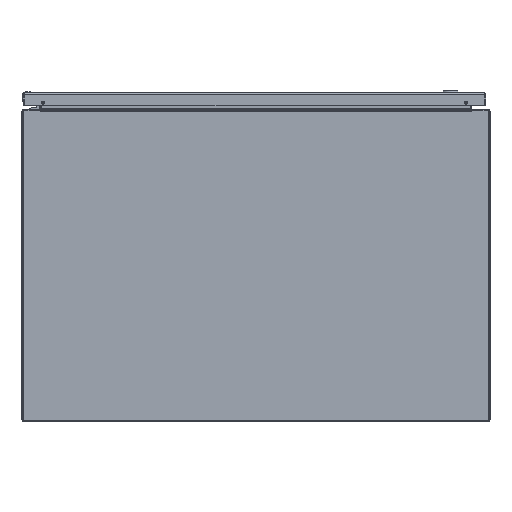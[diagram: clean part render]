
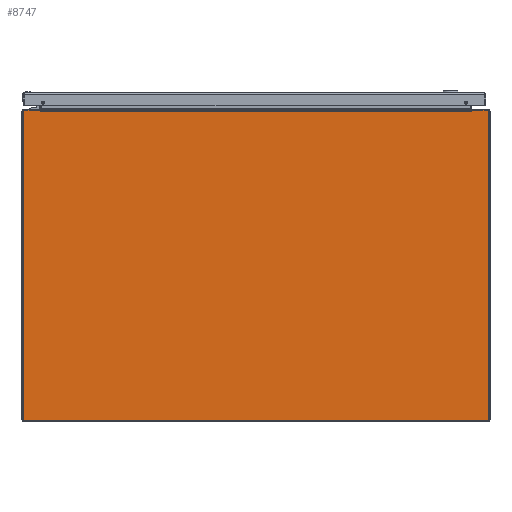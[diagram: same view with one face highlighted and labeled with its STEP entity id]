
A CAD part, front view. The second image highlights one B-rep face of the part: STEP entity #8747.
In plain terms, the highlighted planar face has unit normal (0, -1, 0).
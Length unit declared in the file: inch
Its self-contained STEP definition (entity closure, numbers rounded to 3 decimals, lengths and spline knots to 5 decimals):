
#7850=CARTESIAN_POINT('',(14.887,0.,9.897));
#7851=DIRECTION('',(0.,-1.,0.));
#7852=DIRECTION('',(1.,0.,0.));
#7853=AXIS2_PLACEMENT_3D('',#7850,#7851,#7852);
#7858=DIRECTION('',(0.,0.,-1.));
#7859=VECTOR('',#7858,19.764);
#7860=CARTESIAN_POINT('',(14.967,0.,9.897));
#7861=LINE('',#7860,#7859);
#7865=CARTESIAN_POINT('',(14.887,0.,-9.867));
#7866=DIRECTION('',(0.,-1.,0.));
#7867=DIRECTION('',(0.,0.,-1.));
#7868=AXIS2_PLACEMENT_3D('',#7865,#7866,#7867);
#7873=CARTESIAN_POINT('',(-14.887,0.,-9.867));
#7874=DIRECTION('',(0.,-1.,0.));
#7875=DIRECTION('',(-1.,0.,0.));
#7876=AXIS2_PLACEMENT_3D('',#7873,#7874,#7875);
#7881=DIRECTION('',(0.,0.,1.));
#7882=VECTOR('',#7881,19.764);
#7883=CARTESIAN_POINT('',(-14.967,0.,-9.867));
#7884=LINE('',#7883,#7882);
#7888=CARTESIAN_POINT('',(-14.887,0.,9.897));
#7889=DIRECTION('',(0.,-1.,0.));
#7890=DIRECTION('',(0.,0.,1.));
#7891=AXIS2_PLACEMENT_3D('',#7888,#7889,#7890);
#7903=DIRECTION('',(-1.,0.,0.));
#7904=VECTOR('',#7903,1.062);
#7905=CARTESIAN_POINT('',(14.887,0.,9.977));
#7906=LINE('',#7905,#7904);
#7931=DIRECTION('',(0.,0.,-1.));
#7932=VECTOR('',#7931,0.094);
#7933=CARTESIAN_POINT('',(13.825,0.,9.977));
#7934=LINE('',#7933,#7932);
#8074=DIRECTION('',(1.,0.,0.));
#8075=VECTOR('',#8074,27.65);
#8076=CARTESIAN_POINT('',(-13.825,0.,9.883));
#8077=LINE('',#8076,#8075);
#8118=DIRECTION('',(0.,0.,1.));
#8119=VECTOR('',#8118,0.094);
#8120=CARTESIAN_POINT('',(-13.825,0.,9.883));
#8121=LINE('',#8120,#8119);
#8153=DIRECTION('',(-1.,0.,0.));
#8154=VECTOR('',#8153,1.062);
#8155=CARTESIAN_POINT('',(-13.825,0.,9.977));
#8156=LINE('',#8155,#8154);
#8195=DIRECTION('',(1.,0.,0.));
#8196=VECTOR('',#8195,29.774);
#8197=CARTESIAN_POINT('',(-14.887,0.,-9.947));
#8198=LINE('',#8197,#8196);
#8600=CARTESIAN_POINT('',(-13.825,0.,9.883));
#8601=CARTESIAN_POINT('',(13.825,0.,9.883));
#8602=VERTEX_POINT('',#8600);
#8603=VERTEX_POINT('',#8601);
#8676=CARTESIAN_POINT('',(13.825,0.,9.977));
#8678=VERTEX_POINT('',#8676);
#8680=CARTESIAN_POINT('',(-13.825,0.,9.977));
#8682=VERTEX_POINT('',#8680);
#8684=CARTESIAN_POINT('',(14.967,0.,9.897));
#8685=CARTESIAN_POINT('',(14.887,0.,9.977));
#8686=VERTEX_POINT('',#8684);
#8687=VERTEX_POINT('',#8685);
#8692=CARTESIAN_POINT('',(14.887,0.,-9.947));
#8693=CARTESIAN_POINT('',(14.967,0.,-9.867));
#8694=VERTEX_POINT('',#8692);
#8695=VERTEX_POINT('',#8693);
#8700=CARTESIAN_POINT('',(-14.967,0.,-9.867));
#8701=CARTESIAN_POINT('',(-14.887,0.,-9.947));
#8702=VERTEX_POINT('',#8700);
#8703=VERTEX_POINT('',#8701);
#8708=CARTESIAN_POINT('',(-14.887,0.,9.977));
#8709=CARTESIAN_POINT('',(-14.967,0.,9.897));
#8710=VERTEX_POINT('',#8708);
#8711=VERTEX_POINT('',#8709);
#8716=CARTESIAN_POINT('',(0.,0.,0.));
#8717=DIRECTION('',(0.,-1.,0.));
#8718=DIRECTION('',(-1.,0.,0.));
#8719=AXIS2_PLACEMENT_3D('',#8716,#8717,#8718);
#8720=PLANE('',#8719);
#8722=ORIENTED_EDGE('',*,*,#8721,.F.);
#8724=ORIENTED_EDGE('',*,*,#8723,.T.);
#8726=ORIENTED_EDGE('',*,*,#8725,.F.);
#8728=ORIENTED_EDGE('',*,*,#8727,.F.);
#8730=ORIENTED_EDGE('',*,*,#8729,.F.);
#8732=ORIENTED_EDGE('',*,*,#8731,.T.);
#8734=ORIENTED_EDGE('',*,*,#8733,.F.);
#8736=ORIENTED_EDGE('',*,*,#8735,.F.);
#8738=ORIENTED_EDGE('',*,*,#8737,.F.);
#8740=ORIENTED_EDGE('',*,*,#8739,.T.);
#8742=ORIENTED_EDGE('',*,*,#8741,.F.);
#8744=ORIENTED_EDGE('',*,*,#8743,.F.);
#8745=EDGE_LOOP('',(#8722,#8724,#8726,#8728,#8730,#8732,#8734,#8736,#8738,#8740,
#8742,#8744));
#8746=FACE_OUTER_BOUND('',#8745,.F.);
#7854=CIRCLE('',#7853,0.08);
#7869=CIRCLE('',#7868,0.08);
#7877=CIRCLE('',#7876,0.08);
#7892=CIRCLE('',#7891,0.08);
#8721=EDGE_CURVE('',#8686,#8687,#7854,.T.);
#8723=EDGE_CURVE('',#8686,#8695,#7861,.T.);
#8725=EDGE_CURVE('',#8694,#8695,#7869,.T.);
#8727=EDGE_CURVE('',#8703,#8694,#8198,.T.);
#8729=EDGE_CURVE('',#8702,#8703,#7877,.T.);
#8731=EDGE_CURVE('',#8702,#8711,#7884,.T.);
#8733=EDGE_CURVE('',#8710,#8711,#7892,.T.);
#8735=EDGE_CURVE('',#8682,#8710,#8156,.T.);
#8737=EDGE_CURVE('',#8602,#8682,#8121,.T.);
#8739=EDGE_CURVE('',#8602,#8603,#8077,.T.);
#8741=EDGE_CURVE('',#8678,#8603,#7934,.T.);
#8743=EDGE_CURVE('',#8687,#8678,#7906,.T.);
#8747=ADVANCED_FACE('',(#8746),#8720,.T.);
